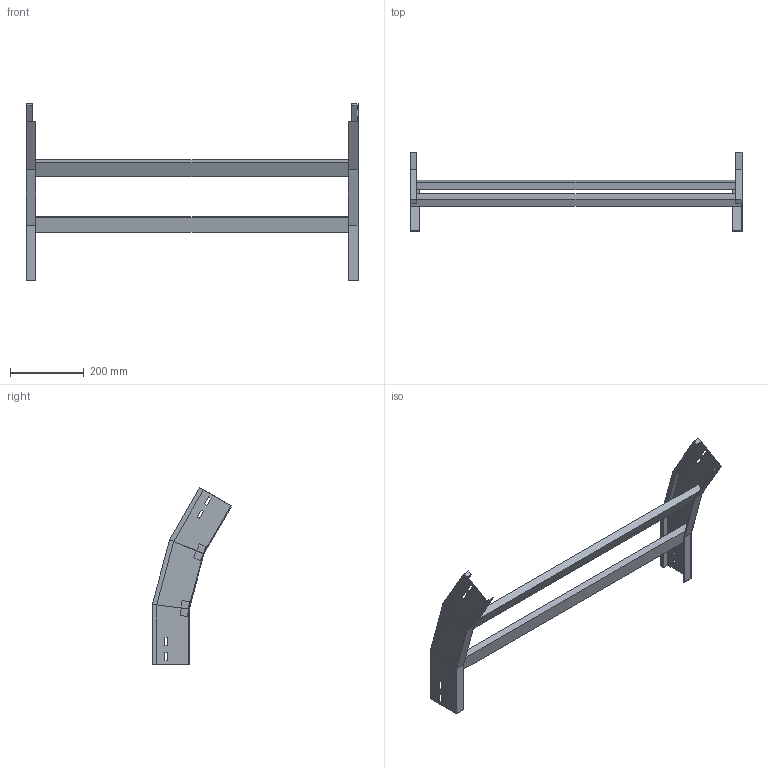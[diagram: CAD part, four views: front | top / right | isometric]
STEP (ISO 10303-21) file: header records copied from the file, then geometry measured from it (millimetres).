
FILE_DESCRIPTION (( 'STEP AP214' ), '1' );
FILE_NAME ('A2_35B3D900.step', '2025-02-21T14:46:35', ( '' ), ( '' ), 'SwSTEP 2.0', 'SolidWorks 2023', '' );
FILE_SCHEMA (( 'AUTOMOTIVE_DESIGN' ));
Length unit declared in the file: millimetre
Products named in the file (3): A2_35B3D900; TRAVERSINO_900; LONGH.DISCESA_30°_H100_R300
Assembly tree (5 placements, depth 2):
  A2_35B3D900
    LONGH.DISCESA_30°_H100_R300  x2
    TRAVERSINO_900  x3
Bounding box: 900 x 215.12 x 479.62 mm (x, y, z)
Volume: 2606629.4 mm3; surface area: 604563.6 mm2
Topology: 5 solids, 5 shells, 102 faces, 244 edges, 152 vertices
Faces by surface type: plane 102
Entity records: 1480 total; most frequent: CARTESIAN_POINT 244, ORIENTED_EDGE 232, DIRECTION 228, EDGE_CURVE 116, VECTOR 116, LINE 116, VERTEX_POINT 72, EDGE_LOOP 56
